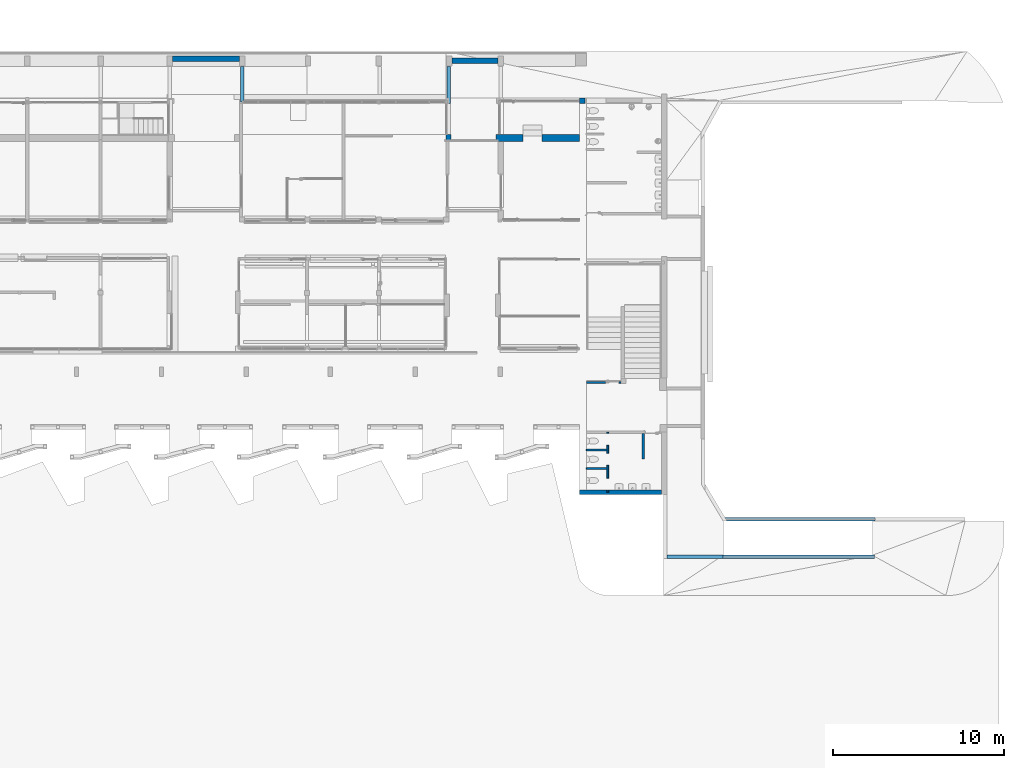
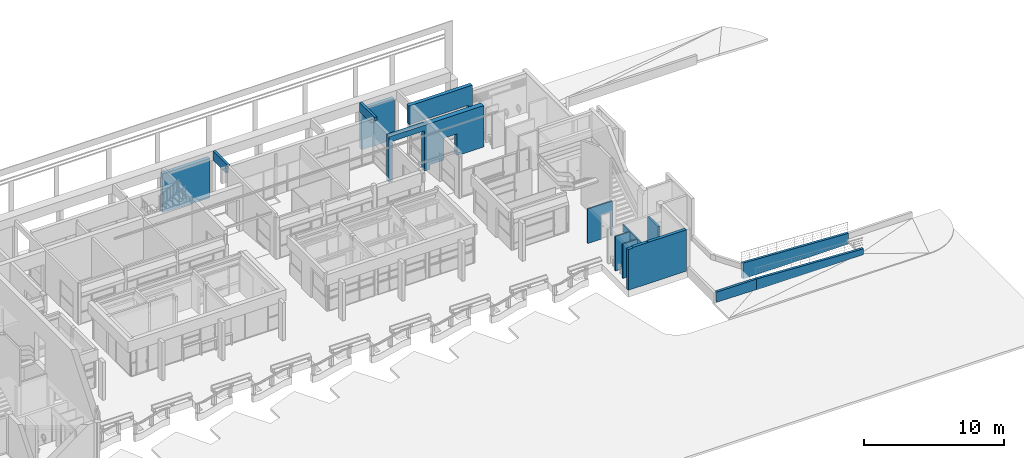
# One storey, part 91 of 117: 15 walls, 8 openings.
"""IFC4 building model written with IfcOpenShell, lengths in metres."""

from ifc_helpers import new_model, entity, si_unit, converted_unit, derived_unit, direction, frame, origin, place, context, subcontext, project, spatial, indexed_curve, outline, extrude, polygons, material, type_object, element, save


model = new_model("IFC4")

# Units and contexts
model_context = context("Model", 3, precision=1e-05, world=origin(), true_north=direction((6.123031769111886e-17, 1.0)))
body_context = subcontext(model_context, "Body", "Model", "MODEL_VIEW")
ifc_project = project(units=[si_unit("LENGTHUNIT", "METRE"), si_unit("AREAUNIT", "SQUARE_METRE"), si_unit("VOLUMEUNIT", "CUBIC_METRE"), converted_unit("PLANEANGLEUNIT", "DEGREE", entity("IfcRatioMeasure", 0.017453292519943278), si_unit("PLANEANGLEUNIT", "RADIAN"), dimensions=[0, 0, 0, 0, 0, 0, 0]), si_unit("MASSUNIT", "GRAM", prefix="KILO"), derived_unit("MASSDENSITYUNIT", [(si_unit("MASSUNIT", "GRAM", prefix="KILO"), 1), (si_unit("LENGTHUNIT", "METRE"), -3)]), derived_unit("MOMENTOFINERTIAUNIT", [(si_unit("LENGTHUNIT", "METRE"), 4)]), si_unit("TIMEUNIT", "SECOND"), si_unit("FREQUENCYUNIT", "HERTZ"), si_unit("THERMODYNAMICTEMPERATUREUNIT", "DEGREE_CELSIUS"), derived_unit("THERMALTRANSMITTANCEUNIT", [(si_unit("MASSUNIT", "GRAM", prefix="KILO"), 1), (si_unit("THERMODYNAMICTEMPERATUREUNIT", "KELVIN"), -1), (si_unit("TIMEUNIT", "SECOND"), -3)]), derived_unit("VOLUMETRICFLOWRATEUNIT", [(si_unit("LENGTHUNIT", "METRE"), 3), (si_unit("TIMEUNIT", "SECOND"), -1)]), derived_unit("MASSFLOWRATEUNIT", [(si_unit("MASSUNIT", "GRAM", prefix="KILO"), 1), (si_unit("TIMEUNIT", "SECOND"), -1)]), derived_unit("ROTATIONALFREQUENCYUNIT", [(si_unit("TIMEUNIT", "SECOND"), -1)]), si_unit("ELECTRICCURRENTUNIT", "AMPERE"), si_unit("ELECTRICVOLTAGEUNIT", "VOLT"), si_unit("POWERUNIT", "WATT"), si_unit("FORCEUNIT", "NEWTON", prefix="KILO"), si_unit("ILLUMINANCEUNIT", "LUX"), si_unit("LUMINOUSFLUXUNIT", "LUMEN"), si_unit("LUMINOUSINTENSITYUNIT", "CANDELA"), derived_unit("USERDEFINED", [(si_unit("MASSUNIT", "GRAM", prefix="KILO"), -1), (si_unit("LENGTHUNIT", "METRE"), -2), (si_unit("TIMEUNIT", "SECOND"), 3), (si_unit("LUMINOUSFLUXUNIT", "LUMEN"), 1)]), derived_unit("SOUNDPOWERUNIT", [(si_unit("MASSUNIT", "GRAM", prefix="KILO"), 1), (si_unit("LENGTHUNIT", "METRE"), 2), (si_unit("TIMEUNIT", "SECOND"), -3)]), derived_unit("SOUNDPRESSUREUNIT", [(si_unit("MASSUNIT", "GRAM", prefix="KILO"), 1), (si_unit("LENGTHUNIT", "METRE"), -1), (si_unit("TIMEUNIT", "SECOND"), -2)]), derived_unit("LINEARVELOCITYUNIT", [(si_unit("LENGTHUNIT", "METRE"), 1), (si_unit("TIMEUNIT", "SECOND"), -1)]), si_unit("PRESSUREUNIT", "PASCAL"), derived_unit("USERDEFINED", [(si_unit("LENGTHUNIT", "METRE"), -2), (si_unit("MASSUNIT", "GRAM", prefix="KILO"), 1), (si_unit("TIMEUNIT", "SECOND"), -2)]), derived_unit("LINEARFORCEUNIT", [(si_unit("MASSUNIT", "GRAM", prefix="KILO"), 1), (si_unit("LENGTHUNIT", "METRE"), 1), (si_unit("TIMEUNIT", "SECOND"), -2), (si_unit("LENGTHUNIT", "METRE"), -1)]), derived_unit("PLANARFORCEUNIT", [(si_unit("MASSUNIT", "GRAM", prefix="KILO"), 1), (si_unit("LENGTHUNIT", "METRE"), 1), (si_unit("TIMEUNIT", "SECOND"), -2), (si_unit("LENGTHUNIT", "METRE"), -2)])], contexts=[model_context])

# Site, building, storey
site_placement = place(None, origin())
site = spatial("IfcSite", under=ifc_project, at=site_placement, Name="Superficie", CompositionType="ELEMENT")
building_placement = place(site_placement, origin())
building = spatial("IfcBuilding", under=site, at=building_placement, CompositionType="ELEMENT")
storey_placement = place(building_placement, origin())
storey = spatial("IfcBuildingStorey", under=building, at=storey_placement, Name="Nivel 0", CompositionType="ELEMENT", Elevation=0.0)

# Walls
ifc_material = material(Name="Muro por defecto", Category="Varios")
wall_type_1 = type_object("IfcWallType", Name="Muro básico:Por defecto - 20 cm", PredefinedType="STANDARD")
wall_1_placement = place(storey_placement, frame((25.676799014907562, -13.864170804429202, -0.6000000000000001)))
element("IfcWall", 1, at=wall_1_placement, inside=storey, type_object=wall_type_1, material=ifc_material, Name="Muro básico:Por defecto - 20 cm", ObjectType="Muro básico:Por defecto - 20 cm", PredefinedType="NOTDEFINED", context=body_context, shape_type="Tessellation", body=[
    polygons([(1.3465893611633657e-15, -0.10000000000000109, 0.04713120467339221), (2.9891212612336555, -0.10000000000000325, 0.004255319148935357), (3.285783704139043, -0.10000000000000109, 0.0032328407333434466), (3.285783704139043, -0.10000000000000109, 0.9225574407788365), (1.3465893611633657e-15, -0.10000000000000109, 0.9225574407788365), (7.069341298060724e-16, 0.10000000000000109, 0.04713120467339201), (7.069341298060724e-16, 0.10000000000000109, 0.9225574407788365), (3.285783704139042, 0.09999999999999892, 0.9225574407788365), (3.285783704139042, 0.09999999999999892, 0.0)], [[[1, 2, 3, 4, 5]], [[6, 7, 8, 9]], [[4, 3, 9, 8]], [[5, 4, 8, 7]], [[1, 5, 7, 6]], [[3, 2, 9]], [[2, 1, 6, 9]]], closed=True),
])
wall_2_placement = place(storey_placement, frame((28.962582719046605, -13.864170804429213, -0.637442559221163)))
element("IfcWall", 2, at=wall_2_placement, inside=storey, type_object=wall_type_1, material=ifc_material, Name="Muro básico:Por defecto - 20 cm", ObjectType="Muro básico:Por defecto - 20 cm", PredefinedType="NOTDEFINED", context=body_context, shape_type="Tessellation", body=[
    polygons([(1.289947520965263e-15, -0.09999999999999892, 0.0), (8.814216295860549, -0.09999999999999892, 0.0), (8.814216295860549, -0.09999999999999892, 0.5100000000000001), (1.289947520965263e-15, -0.09999999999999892, 0.9599999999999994), (1.289947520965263e-15, -0.09999999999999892, 0.04067539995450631), (6.511035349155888e-16, 0.09999999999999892, 0.0), (6.511035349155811e-16, 0.10000000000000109, 0.03744255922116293), (6.511035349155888e-16, 0.09999999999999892, 0.9599999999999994), (8.814216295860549, 0.10000000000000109, 0.5100000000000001), (8.814216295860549, 0.10000000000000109, 0.0)], [[[1, 2, 3, 4, 5]], [[6, 7, 8, 9, 10]], [[2, 1, 6, 10]], [[1, 5, 4, 8, 7, 6]], [[3, 2, 10, 9]], [[4, 3, 9, 8]]], closed=True),
])
wall_3_placement = place(storey_placement, frame((29.07368326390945, -11.664170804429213, -1.0706380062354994)))
element("IfcWall", 3, at=wall_3_placement, inside=storey, type_object=wall_type_1, material=ifc_material, Name="Muro básico:Por defecto - 20 cm", ObjectType="Muro básico:Por defecto - 20 cm", PredefinedType="NOTDEFINED", context=body_context, shape_type="Tessellation", body=[
    polygons([(0.11932347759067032, -0.10000000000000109, 0.0), (8.757432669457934, -0.10000000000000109, -1.353583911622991e-16), (8.757432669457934, -0.10000000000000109, 0.9431954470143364), (0.11932347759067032, -0.10000000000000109, 1.3842044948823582), (0.11932347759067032, -0.10000000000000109, 0.06531322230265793), (2.286756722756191e-15, 0.09999999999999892, 0.0), (2.286756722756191e-15, 0.09999999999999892, 1.3902964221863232), (8.757432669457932, 0.09999999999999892, 0.9431954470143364), (8.757432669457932, 0.09999999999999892, -1.353583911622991e-16)], [[[1, 2, 3, 4, 5]], [[6, 7, 8, 9]], [[2, 1, 6, 9]], [[3, 2, 9, 8]], [[4, 3, 8, 7]], [[1, 5, 4, 7, 6]]], closed=True),
])
wall_4_placement = place(storey_placement, frame((0.9215520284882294, 14.740829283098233, 3.12), z_axis=(0.0, 0.0, 1.0), x_axis=(0.0, -1.0, 0.0)))
element("IfcWall", 4, at=wall_4_placement, inside=storey, type_object=wall_type_1, material=ifc_material, Name="Muro básico:Por defecto - 20 cm", ObjectType="Muro básico:Por defecto - 20 cm", PredefinedType="NOTDEFINED", context=body_context, shape_type="Tessellation", body=[
    polygons([(0.0, -0.09999999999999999, 0.0), (1.8562808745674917, -0.10000000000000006, 0.0), (1.8562808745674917, -0.10000000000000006, 0.6999999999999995), (2.0862808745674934, -0.09999999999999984, 0.6999999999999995), (2.0862808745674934, -0.09999999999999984, 0.793109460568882), (0.0, -0.09999999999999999, 0.793109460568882), (0.0, 0.10000000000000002, 0.0), (0.0, 0.10000000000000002, 0.793109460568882), (2.0862808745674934, 0.10000000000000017, 0.793109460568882), (2.0862808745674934, 0.10000000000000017, 0.6999999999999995), (1.8562808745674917, 0.09999999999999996, 0.6999999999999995), (1.8562808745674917, 0.09999999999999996, 0.0)], [[[1, 2, 3, 4, 5, 6]], [[7, 8, 9, 10, 11, 12]], [[2, 1, 7, 12]], [[6, 5, 9, 8]], [[5, 4, 10, 9]], [[10, 4, 3, 11]], [[3, 2, 12, 11]], [[1, 6, 8, 7]]], closed=True),
])
wall_5_placement = place(storey_placement, frame((12.9747712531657, 14.740829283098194, 3.12), z_axis=(0.0, 0.0, 1.0), x_axis=(0.0, -1.0, 0.0)))
element("IfcWall", 5, at=wall_5_placement, inside=storey, type_object=wall_type_1, material=ifc_material, Name="Muro básico:Por defecto - 20 cm", ObjectType="Muro básico:Por defecto - 20 cm", PredefinedType="NOTDEFINED", context=body_context, shape_type="Tessellation", body=[
    polygons([(2.1657342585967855e-15, -0.10000000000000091, 0.0), (1.6353703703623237, -0.10000000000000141, 0.0), (1.6353703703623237, -0.10000000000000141, 0.4799999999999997), (1.8562808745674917, -0.1000000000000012, 0.4799999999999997), (2.1562808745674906, -0.1000000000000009, 0.4799999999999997), (2.1562808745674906, -0.1000000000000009, 0.6999999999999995), (2.1562808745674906, -0.1000000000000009, 0.793109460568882), (2.1657342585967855e-15, -0.10000000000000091, 0.793109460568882), (2.1657342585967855e-15, 0.09999999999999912, 0.0), (2.1657342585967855e-15, 0.09999999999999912, 0.793109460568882), (2.1562808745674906, 0.09999999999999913, 0.793109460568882), (2.1562808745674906, 0.09999999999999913, 0.4799999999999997), (1.6353703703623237, 0.0999999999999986, 0.4799999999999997), (1.6353703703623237, 0.0999999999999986, 0.0), (1.6353703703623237, 0.017027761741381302, 0.4799999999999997)], [[[1, 2, 3, 4, 5, 6, 7, 8]], [[9, 10, 11, 12, 13, 14]], [[2, 1, 9, 14]], [[8, 7, 11, 10]], [[1, 8, 10, 9]], [[12, 5, 4, 3, 15, 13]], [[3, 2, 14, 13, 15]], [[7, 6, 5, 12, 11]]], closed=True),
])

# Wall, openings
wall_type_2 = type_object("IfcWallType", Name="Muro básico:Por defecto - 40 cm 2", PredefinedType="STANDARD")
wall_6_placement = place(storey_placement, frame((12.79179901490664, 10.570829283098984, -0.40895633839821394)))
wall_6 = element("IfcWall", 6, at=wall_6_placement, inside=storey, type_object=wall_type_2, material=ifc_material, Name="Muro básico:Por defecto - 40 cm 2", ObjectType="Muro básico:Por defecto - 40 cm 2", PredefinedType="NOTDEFINED", context=body_context, shape_type="Tessellation", body=[
    polygons([(7.795000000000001, -0.19999999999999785, 0.40895633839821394), (7.795000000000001, -0.19999999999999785, 4.008956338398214), (2.865548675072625e-15, -0.2, 4.008956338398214), (2.865548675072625e-15, -0.2, 3.7089563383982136), (2.865548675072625e-15, -0.2, 0.0377563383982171), (0.29376929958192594, -0.19999999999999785, 0.03514700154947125), (0.29376929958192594, -0.19999999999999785, 3.5188509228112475), (2.9137692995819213, -0.19999999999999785, 3.5188509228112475), (2.9137692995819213, -0.1999999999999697, 0.0118754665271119), (3.3549999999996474, -0.19999999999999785, 0.007956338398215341), (3.354999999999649, -0.2, 0.40895633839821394), (4.504999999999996, -0.2, 0.40895633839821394), (4.504999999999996, -0.19999999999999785, 2.320430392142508), (5.604999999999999, -0.19999999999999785, 2.320430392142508), (5.604999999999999, -0.19999999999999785, 0.40895633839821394), (7.794999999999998, 0.20000000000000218, 4.008956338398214), (7.794999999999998, 0.20000000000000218, 0.40895633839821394), (5.605, 0.20000000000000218, 0.40895633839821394), (5.605, 0.20000000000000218, 2.320430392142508), (4.5049999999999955, 0.20000000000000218, 2.320430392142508), (4.5049999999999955, 0.20000000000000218, 0.40895633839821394), (3.354999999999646, 0.2, 0.40895633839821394), (3.354999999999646, 0.20000000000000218, 2.0303758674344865e-16), (2.9137692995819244, 0.20000000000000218, 0.003919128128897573), (2.9137692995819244, 0.20000000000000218, 3.5188509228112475), (0.2937692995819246, 0.20000000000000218, 3.5188509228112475), (0.2937692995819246, 0.20000000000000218, 0.02719066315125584), (2.9826162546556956e-13, 0.2, 0.029799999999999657), (3.721766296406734e-15, 0.2, 4.008956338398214)], [[[1, 2, 3, 4, 5, 6, 7, 8, 9, 10, 11, 12, 13, 14, 15]], [[16, 17, 18, 19, 20, 21, 22, 23, 24, 25, 26, 27, 28, 29]], [[3, 2, 16, 29]], [[5, 4, 3, 29, 28]], [[17, 1, 15, 18]], [[22, 21, 12, 11]], [[2, 1, 17, 16]], [[22, 11, 10, 23]], [[9, 24, 23, 10]], [[5, 28, 27, 6]], [[7, 26, 25, 8]], [[26, 7, 6, 27]], [[8, 25, 24, 9]], [[13, 20, 19, 14]], [[20, 13, 12, 21]], [[14, 19, 18, 15]]], closed=True),
])
opening_1_placement = place(wall_6_placement, origin())
element("IfcOpeningElement", 7, at=opening_1_placement, cuts=wall_6, Name="Muro básico:Por defecto - 40 cm 2", PredefinedType="OPENING", context=body_context, shape_type="SweptSolid", body=[
    extrude(outline(indexed_curve([(-1.6305551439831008, -1.309999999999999), (1.6305551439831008, -1.309999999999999), (1.6305551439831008, 1.309999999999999), (-1.6305551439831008, 1.309999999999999), (-1.6305551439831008, -1.309999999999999)], self_intersect=False)), frame((1.6037692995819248, -0.19999999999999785, 1.8882957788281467), z_axis=(0.0, 1.0, 0.0), x_axis=(0.0, 0.0, -1.0)), (0.0, 0.0, 1.0), 0.4),
])
opening_2_placement = place(wall_6_placement, origin())
element("IfcOpeningElement", 8, at=opening_2_placement, cuts=wall_6, Name="Muro básico:Por defecto - 40 cm 2", PredefinedType="OPENING", context=body_context, shape_type="SweptSolid", body=[
    extrude(outline(indexed_curve([(-0.9805846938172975, -0.5500000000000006), (0.9805846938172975, -0.5500000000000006), (0.9805846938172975, 0.5500000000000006), (-0.9805846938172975, 0.5500000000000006), (-0.9805846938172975, -0.5500000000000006)], self_intersect=False)), frame((5.055, -0.19999999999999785, 1.3398456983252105), z_axis=(0.0, 1.0, 0.0), x_axis=(0.0, 0.0, -1.0)), (0.0, 0.0, 1.0), 0.4),
])

# Wall
wall_type_3 = type_object("IfcWallType", Name="Muro básico:Por defecto - 25 cm 2", PredefinedType="STANDARD")
wall_7_placement = place(storey_placement, frame((20.586799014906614, -10.089170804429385, 0.0)))
element("IfcWall", 9, at=wall_7_placement, inside=storey, type_object=wall_type_3, material=ifc_material, Name="Muro básico:Por defecto - 25 cm 2", ObjectType="Muro básico:Por defecto - 25 cm 2", PredefinedType="NOTDEFINED", context=body_context, shape_type="Tessellation", body=[
    polygons([(0.0, -0.12499999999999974, 0.0), (4.780000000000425, -0.12499999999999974, 0.0), (4.780000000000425, -0.12499999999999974, 3.5999999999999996), (0.4, -0.12499999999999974, 3.5999999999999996), (0.4, -0.12499999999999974, 3.549999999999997), (0.0, -0.12499999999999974, 3.549999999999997), (0.0, 0.12499999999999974, 0.0), (0.0, 0.12499999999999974, 3.549999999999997), (0.4, 0.12499999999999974, 3.549999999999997), (0.4, 0.12499999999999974, 3.5999999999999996), (4.780000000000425, 0.12499999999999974, 3.5999999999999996), (4.780000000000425, 0.12499999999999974, 0.0)], [[[1, 2, 3, 4, 5, 6]], [[7, 8, 9, 10, 11, 12]], [[2, 1, 7, 12]], [[3, 2, 12, 11]], [[4, 3, 11, 10]], [[5, 9, 8, 6]], [[1, 6, 8, 7]], [[5, 4, 10, 9]]], closed=True),
])

# Wall, opening
wall_type_4 = type_object("IfcWallType", Name="Muro básico:Por defecto - 30 cm", PredefinedType="STANDARD")
wall_8_placement = place(storey_placement, frame((15.705568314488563, 12.734548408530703, 0.0)))
wall_8 = element("IfcWall", 10, at=wall_8_placement, inside=storey, type_object=wall_type_4, material=ifc_material, Name="Muro básico:Por defecto - 30 cm", ObjectType="Muro básico:Por defecto - 30 cm", PredefinedType="NOTDEFINED", context=body_context, shape_type="Tessellation", body=[
    polygons([(5.20873070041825, -0.15000000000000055, 0.0), (5.20873070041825, -0.15000000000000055, 3.9199999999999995), (4.881230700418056, -0.15000000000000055, 3.9199999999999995), (0.4412307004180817, -0.15000000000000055, 3.9199999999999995), (0.14123070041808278, -0.15000000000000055, 3.9199999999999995), (2.9070618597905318e-15, -0.15000000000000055, 3.9199999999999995), (2.9070618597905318e-15, -0.15000000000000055, 2.28), (4.881230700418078, -0.15000000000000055, 2.28), (4.881230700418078, -0.15000000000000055, 0.0), (5.208730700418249, 0.15000000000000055, 3.9199999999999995), (5.208730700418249, 0.15000000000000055, 0.0), (4.881230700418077, 0.15000000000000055, 0.0), (4.881230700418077, 0.15000000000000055, 2.28), (2.0470511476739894e-15, 0.15000000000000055, 2.28), (2.0470511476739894e-15, 0.15000000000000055, 3.9199999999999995), (4.881230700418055, 0.15000000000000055, 3.9199999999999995)], [[[1, 2, 3, 4, 5, 6, 7, 8, 9]], [[10, 11, 12, 13, 14, 15, 16]], [[11, 1, 9, 12]], [[2, 1, 11, 10]], [[6, 15, 14, 7]], [[3, 2, 10, 16]], [[6, 5, 4, 3, 16, 15]], [[13, 8, 7, 14]], [[8, 13, 12, 9]]], closed=True),
])
opening_3_placement = place(wall_8_placement, origin())
element("IfcOpeningElement", 11, at=opening_3_placement, cuts=wall_8, Name="Muro básico:Por defecto - 30 cm", PredefinedType="OPENING", context=body_context, shape_type="SweptSolid", body=[
    extrude(outline(indexed_curve([(-1.1725658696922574, -2.4734373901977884), (1.1725658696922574, -2.4734373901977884), (1.1725658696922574, 2.4734373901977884), (-1.1725658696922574, 2.4734373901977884), (-1.1725658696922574, -2.4734373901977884)], self_intersect=False)), frame((2.4077933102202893, -0.15000000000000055, 1.1074341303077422), z_axis=(0.0, 1.0, 0.0), x_axis=(0.0, 0.0, -1.0)), (0.0, 0.0, 1.0), 0.3000000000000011),
])

# Walls
wall_9_placement = place(storey_placement, frame((-3.153200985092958, 15.18545891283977, -0.32007713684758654)))
element("IfcWall", 12, at=wall_9_placement, inside=storey, type_object=wall_type_4, material=ifc_material, Name="Muro básico:Por defecto - 30 cm", ObjectType="Muro básico:Por defecto - 30 cm", PredefinedType="NOTDEFINED", context=body_context, shape_type="Tessellation", body=[
    polygons([(-9.594789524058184e-17, -0.15000000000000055, 0.07952774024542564), (3.9147530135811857, -0.14999999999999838, 2.0303758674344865e-16), (3.9147530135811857, -0.14999999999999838, 3.4400771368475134), (-9.594789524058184e-17, -0.15000000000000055, 3.4400771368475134), (-8.883477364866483e-18, 0.15000000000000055, 0.0795277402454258), (-8.883477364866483e-18, 0.15000000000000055, 3.4400771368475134), (3.9147530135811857, 0.15000000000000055, 3.4400771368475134), (3.9147530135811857, 0.15000000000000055, 0.0)], [[[1, 2, 3, 4]], [[5, 6, 7, 8]], [[3, 2, 8, 7]], [[4, 3, 7, 6]], [[1, 4, 6, 5]], [[2, 1, 5, 8]]], closed=True),
])
wall_10_placement = place(storey_placement, frame((13.156799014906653, 15.065458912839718, -0.443632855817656)))
element("IfcWall", 13, at=wall_10_placement, inside=storey, type_object=wall_type_4, material=ifc_material, Name="Muro básico:Por defecto - 30 cm", ObjectType="Muro básico:Por defecto - 30 cm", PredefinedType="NOTDEFINED", context=body_context, shape_type="Tessellation", body=[
    polygons([(1.7778056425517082e-15, -0.14999999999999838, 0.0208980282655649), (2.6899999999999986, -0.14999999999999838, -2.0303758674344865e-16), (2.6899999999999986, -0.14999999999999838, 3.563632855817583), (1.7778056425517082e-15, -0.14999999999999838, 3.563632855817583), (8.116788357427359e-16, 0.15000000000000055, 0.020898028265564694), (8.116788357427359e-16, 0.15000000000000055, 3.563632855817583), (2.6899999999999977, 0.15000000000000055, 3.563632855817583), (2.6899999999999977, 0.15000000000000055, 0.0021292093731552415), (1.5355558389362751, 0.14999999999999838, 0.008968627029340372), (2.6899999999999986, -0.09497425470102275, -6.767919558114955e-17)], [[[1, 2, 3, 4]], [[5, 6, 7, 8, 9]], [[3, 2, 10, 8, 7]], [[4, 3, 7, 6]], [[1, 4, 6, 5]], [[2, 1, 5, 9, 10]], [[9, 8, 10]]], closed=True),
])
wall_type_5 = type_object("IfcWallType", Name="Muro básico:Por defecto - 10 cm", PredefinedType="STANDARD")
wall_11_placement = place(storey_placement, frame((20.986799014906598, -8.709170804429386, 0.0)))
element("IfcWall", 14, at=wall_11_placement, inside=storey, type_object=wall_type_5, material=ifc_material, Name="Muro básico:Por defecto - 10 cm", ObjectType="Muro básico:Por defecto - 10 cm", PredefinedType="NOTDEFINED", context=body_context, shape_type="Tessellation", body=[
    polygons([(1.862232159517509e-14, -0.04999999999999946, 0.0), (1.2000000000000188, -0.04999999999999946, 0.0), (1.200000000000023, -0.04999999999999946, 2.9999999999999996), (5.627916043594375e-15, -0.04999999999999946, 2.9999999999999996), (1.826136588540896e-14, 0.050000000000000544, 0.0), (1.826136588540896e-14, 0.050000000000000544, 2.9999999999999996), (1.2000000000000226, 0.050000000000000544, 2.9999999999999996), (1.2000000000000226, 0.050000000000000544, 0.0)], [[[1, 2, 3, 4]], [[5, 6, 7, 8]], [[2, 1, 5, 8]], [[1, 4, 6, 5]], [[3, 2, 8, 7]], [[4, 3, 7, 6]]], closed=True),
])
wall_12_placement = place(storey_placement, frame((20.986799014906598, -7.629170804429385, 0.0)))
element("IfcWall", 15, at=wall_12_placement, inside=storey, type_object=wall_type_5, material=ifc_material, Name="Muro básico:Por defecto - 10 cm", ObjectType="Muro básico:Por defecto - 10 cm", PredefinedType="NOTDEFINED", context=body_context, shape_type="Tessellation", body=[
    polygons([(2.3386936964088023e-14, -0.050000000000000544, 0.0), (1.2000000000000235, -0.050000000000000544, 0.0), (1.2000000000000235, -0.050000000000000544, 2.9999999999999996), (1.039253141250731e-14, -0.050000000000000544, 2.9999999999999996), (2.302598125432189e-14, 0.04999999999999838, 0.0), (2.302598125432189e-14, 0.04999999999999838, 2.9999999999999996), (1.200000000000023, 0.050000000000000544, 2.9999999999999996), (1.200000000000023, 0.050000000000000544, 0.0)], [[[1, 2, 3, 4]], [[5, 6, 7, 8]], [[2, 1, 5, 8]], [[1, 4, 6, 5]], [[3, 2, 8, 7]], [[4, 3, 7, 6]]], closed=True),
])

# Wall, openings
wall_13_placement = place(storey_placement, frame((22.236799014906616, -6.589170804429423, 0.0), z_axis=(0.0, 0.0, 1.0), x_axis=(0.0, -1.0, 0.0)))
wall_13 = element("IfcWall", 16, at=wall_13_placement, inside=storey, type_object=wall_type_5, material=ifc_material, Name="Muro básico:Por defecto - 10 cm", ObjectType="Muro básico:Por defecto - 10 cm", PredefinedType="NOTDEFINED", context=body_context, shape_type="Tessellation", body=[
    polygons([(3.4999999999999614, -0.0499999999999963, 0.0), (3.4999999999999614, -0.0499999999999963, 3.5999999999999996), (3.3749999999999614, -0.049999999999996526, 3.5999999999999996), (3.3749999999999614, -0.049999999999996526, 2.9999999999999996), (2.1699999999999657, -0.04999999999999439, 2.9999999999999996), (2.0699999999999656, -0.04999999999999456, 2.999999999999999), (1.0899999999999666, -0.04999999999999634, 2.999999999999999), (0.9899999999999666, -0.049999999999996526, 2.999999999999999), (0.0, -0.049999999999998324, 2.9999999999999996), (0.0, -0.049999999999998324, 0.0), (0.07355248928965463, -0.04999999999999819, 0.0), (0.07355248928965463, -0.04999999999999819, 2.4384), (0.7735524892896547, -0.049999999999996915, 2.4384), (0.7735524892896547, -0.049999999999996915, 0.0), (0.9899999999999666, -0.049999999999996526, 0.0), (1.0899999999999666, -0.04999999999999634, 0.0), (1.229456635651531, -0.049999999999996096, 0.0), (1.229456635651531, -0.049999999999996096, 2.4384), (1.92945663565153, -0.04999999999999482, 2.4384), (1.92945663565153, -0.04999999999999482, 0.0), (2.0699999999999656, -0.04999999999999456, 0.0), (2.1699999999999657, -0.04999999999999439, 0.0), (2.6755739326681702, -0.049999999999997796, 0.0), (2.6755739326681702, -0.050000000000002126, 2.4384), (3.375573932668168, -0.050000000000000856, 2.4384), (3.375573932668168, -0.049999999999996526, 0.0), (3.4999999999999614, 0.050000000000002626, 3.5999999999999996), (3.4999999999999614, 0.050000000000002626, 0.0), (3.375573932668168, 0.0500000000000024, 0.0), (3.375573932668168, 0.0500000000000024, 2.4384), (2.6755739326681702, 0.05000000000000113, 2.4384), (2.6755739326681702, 0.05000000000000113, 0.0), (1.92945663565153, 0.050000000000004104, 0.0), (1.92945663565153, 0.050000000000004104, 2.4384), (1.229456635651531, 0.05000000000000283, 2.4384), (1.229456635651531, 0.05000000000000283, 0.0), (0.7735524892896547, 0.05000000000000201, 0.0), (0.7735524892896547, 0.05000000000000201, 2.4384), (0.07355248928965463, 0.05000000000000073, 2.4384), (0.07355248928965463, 0.05000000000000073, 0.0), (0.0, 0.050000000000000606, 0.0), (0.0, 0.050000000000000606, 2.9999999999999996), (3.3749999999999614, 0.0500000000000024, 2.9999999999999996), (3.3749999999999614, 0.0500000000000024, 3.5999999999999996)], [[[1, 2, 3, 4, 5, 6, 7, 8, 9, 10, 11, 12, 13, 14, 15, 16, 17, 18, 19, 20, 21, 22, 23, 24, 25, 26]], [[27, 28, 29, 30, 31, 32, 33, 34, 35, 36, 37, 38, 39, 40, 41, 42, 43, 44]], [[10, 41, 40, 11]], [[2, 1, 28, 27]], [[10, 9, 42, 41]], [[24, 31, 30, 25]], [[31, 24, 23, 32]], [[25, 30, 29, 26]], [[18, 35, 34, 19]], [[35, 18, 17, 36]], [[19, 34, 33, 20]], [[12, 39, 38, 13]], [[39, 12, 11, 40]], [[13, 38, 37, 14]], [[3, 2, 27, 44]], [[3, 44, 43, 4]], [[9, 8, 7, 6, 5, 4, 43, 42]], [[36, 17, 16, 15, 14, 37]], [[32, 23, 22, 21, 20, 33]], [[28, 1, 26, 29]]], closed=True),
])
opening_4_placement = place(wall_13_placement, origin())
element("IfcOpeningElement", 17, at=opening_4_placement, cuts=wall_13, Name="Muro básico:Por defecto - 10 cm", PredefinedType="OPENING", context=body_context, shape_type="SweptSolid", body=[
    extrude(outline(indexed_curve([(-1.2192, -0.0023129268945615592), (1.2192, -0.0023129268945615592), (1.2192, 0.002312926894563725), (-1.2192, 0.002312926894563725), (-1.2192, -0.0023129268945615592)], self_intersect=False)), frame((3.3725129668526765, -0.050000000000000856, 1.2192), z_axis=(0.0, 1.0, 0.0), x_axis=(0.0, 0.0, -1.0)), (0.0, 0.0, 1.0), 0.10000000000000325),
])
opening_5_placement = place(wall_13_placement, origin())
element("IfcOpeningElement", 18, at=opening_5_placement, cuts=wall_13, Name="Muro básico:Por defecto - 10 cm", PredefinedType="OPENING", context=body_context, shape_type="SweptSolid", body=[
    extrude(outline(indexed_curve([(-1.2192, -0.3500000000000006), (1.2192, -0.3500000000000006), (1.2192, 0.3499999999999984), (-1.2192, 0.3499999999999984), (-1.2192, -0.3500000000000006)], self_intersect=False)), frame((3.0255739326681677, -0.050000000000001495, 1.2192), z_axis=(0.0, 1.0, 0.0), x_axis=(0.0, 0.0, -1.0)), (0.0, 0.0, 1.0), 0.10000000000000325),
])
opening_6_placement = place(wall_13_placement, origin())
element("IfcOpeningElement", 19, at=opening_6_placement, cuts=wall_13, Name="Muro básico:Por defecto - 10 cm", PredefinedType="OPENING", context=body_context, shape_type="SweptSolid", body=[
    extrude(outline(indexed_curve([(-1.2192, -0.3499999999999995), (1.2192, -0.3499999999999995), (1.2192, 0.3499999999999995), (-1.2192, 0.3499999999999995), (-1.2192, -0.3499999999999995)], self_intersect=False)), frame((1.5794566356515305, -0.04999999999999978, 1.2192), z_axis=(0.0, 1.0, 0.0), x_axis=(0.0, 0.0, -1.0)), (0.0, 0.0, 1.0), 0.10000000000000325),
])
opening_7_placement = place(wall_13_placement, origin())
element("IfcOpeningElement", 20, at=opening_7_placement, cuts=wall_13, Name="Muro básico:Por defecto - 10 cm", PredefinedType="OPENING", context=body_context, shape_type="SweptSolid", body=[
    extrude(outline(indexed_curve([(-1.2192, -0.3499999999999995), (1.2192, -0.3499999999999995), (1.2192, 0.3500000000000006), (-1.2192, 0.3500000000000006), (-1.2192, -0.3499999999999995)], self_intersect=False)), frame((0.4235524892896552, -0.05000000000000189, 1.2192), z_axis=(0.0, 1.0, 0.0), x_axis=(0.0, 0.0, -1.0)), (0.0, 0.0, 1.0), 0.10000000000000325),
])

# Wall
wall_type_6 = type_object("IfcWallType", Name="Muro básico:Por defecto - 15 cm 2", PredefinedType="STANDARD")
wall_14_placement = place(storey_placement, frame((24.301602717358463, -6.664170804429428, 0.0), z_axis=(0.0, 0.0, 1.0), x_axis=(0.0, -1.0, 0.0)))
element("IfcWall", 21, at=wall_14_placement, inside=storey, type_object=wall_type_6, material=ifc_material, Name="Muro básico:Por defecto - 15 cm 2", ObjectType="Muro básico:Por defecto - 15 cm 2", PredefinedType="NOTDEFINED", context=body_context, shape_type="Tessellation", body=[
    polygons([(2.1657342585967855e-15, -0.07499999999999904, 0.0), (1.4800000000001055, -0.07499999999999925, 0.0), (1.4800000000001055, -0.07499999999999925, 2.9999999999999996), (2.1657342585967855e-15, -0.07499999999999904, 2.9999999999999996), (1.0828671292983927e-15, 0.07500000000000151, 0.0), (1.0828671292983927e-15, 0.07500000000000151, 2.9999999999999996), (1.4800000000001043, 0.07500000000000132, 2.9999999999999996), (1.4800000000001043, 0.07500000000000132, 0.0)], [[[1, 2, 3, 4]], [[5, 6, 7, 8]], [[2, 1, 5, 8]], [[3, 2, 8, 7]], [[4, 3, 7, 6]], [[1, 4, 6, 5]]], closed=True),
])

# Wall, opening
wall_type_7 = type_object("IfcWallType", Name="Muro básico:Por defecto - 12 cm 2", PredefinedType="STANDARD")
wall_15_placement = place(storey_placement, frame((20.986799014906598, -3.6841708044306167, 0.0)))
wall_15 = element("IfcWall", 22, at=wall_15_placement, inside=storey, type_object=wall_type_7, material=ifc_material, Name="Muro básico:Por defecto - 12 cm 2", ObjectType="Muro básico:Por defecto - 12 cm 2", PredefinedType="NOTDEFINED", context=body_context, shape_type="Tessellation", body=[
    polygons([(2.0277777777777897, -0.05999999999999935, 0.0), (2.0277777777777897, -0.05999999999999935, 2.9999999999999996), (7.881956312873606e-15, -0.059999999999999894, 2.9999999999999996), (2.520783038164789e-14, -0.059999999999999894, 0.0), (1.1077777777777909, -0.059999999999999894, 0.0), (1.1077777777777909, -0.059999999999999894, 2.099999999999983), (1.907777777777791, -0.059999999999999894, 2.099999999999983), (1.907777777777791, -0.05999999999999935, 0.0), (2.0277777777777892, 0.060000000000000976, 2.9999999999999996), (2.0277777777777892, 0.060000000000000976, 0.0), (1.9077777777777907, 0.060000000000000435, 0.0), (1.9077777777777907, 0.060000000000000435, 2.099999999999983), (1.1077777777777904, 0.060000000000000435, 2.099999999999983), (1.1077777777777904, 0.059999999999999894, 0.0), (2.481639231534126e-14, 0.05999999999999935, 0.0), (2.481639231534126e-14, 0.05999999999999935, 2.9999999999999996)], [[[1, 2, 3, 4, 5, 6, 7, 8]], [[9, 10, 11, 12, 13, 14, 15, 16]], [[4, 15, 14, 5]], [[2, 1, 10, 9]], [[4, 3, 16, 15]], [[3, 2, 9, 16]], [[7, 12, 11, 8]], [[12, 7, 6, 13]], [[13, 6, 5, 14]], [[10, 1, 8, 11]]], closed=True),
])
opening_8_placement = place(wall_15_placement, frame((1.1077777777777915, -0.06000000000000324, 0.0)))
element("IfcOpeningElement", 23, at=opening_8_placement, cuts=wall_15, Name="Puerta de 1 hoja:80 x 210 cm:1", PredefinedType="OPENING", context=body_context, shape_type="SweptSolid", body=[
    extrude(outline(indexed_curve([(0.0, 0.8), (0.0, -3.0355661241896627e-31), (2.099999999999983, -3.0355661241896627e-31), (2.099999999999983, 0.8), (0.0, 0.8)], self_intersect=False)), frame((0.0, 0.0, 0.0), z_axis=(0.0, 1.0, 0.0), x_axis=(0.0, 0.0, 1.0)), (0.0, 0.0, 1.0), 0.12),
])

save(model, "model.ifc")
